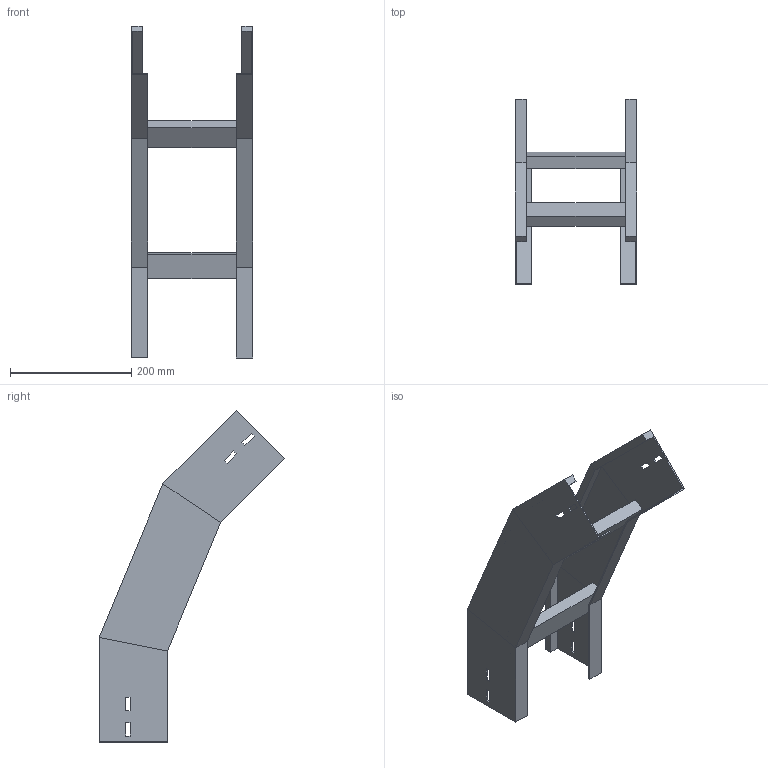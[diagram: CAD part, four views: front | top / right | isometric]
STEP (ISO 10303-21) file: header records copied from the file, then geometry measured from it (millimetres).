
FILE_DESCRIPTION (( 'STEP AP214' ), '1' );
FILE_NAME ('A2_34B3J200.step', '2025-02-21T14:53:08', ( '' ), ( '' ), 'SwSTEP 2.0', 'SolidWorks 2023', '' );
FILE_SCHEMA (( 'AUTOMOTIVE_DESIGN' ));
Length unit declared in the file: millimetre
Products named in the file (3): TRAVERSINO_200; LONGH.DISCESA_45°_H112.5_R300; A2_34B3J200
Assembly tree (5 placements, depth 2):
  A2_34B3J200
    LONGH.DISCESA_45°_H112.5_R300  x2
    TRAVERSINO_200  x3
Bounding box: 200 x 306.58 x 548.11 mm (x, y, z)
Volume: 1021594.3 mm3; surface area: 432000.6 mm2
Topology: 5 solids, 5 shells, 102 faces, 244 edges, 152 vertices
Faces by surface type: plane 102
Entity records: 1480 total; most frequent: CARTESIAN_POINT 244, ORIENTED_EDGE 232, DIRECTION 228, EDGE_CURVE 116, VECTOR 116, LINE 116, VERTEX_POINT 72, EDGE_LOOP 56
